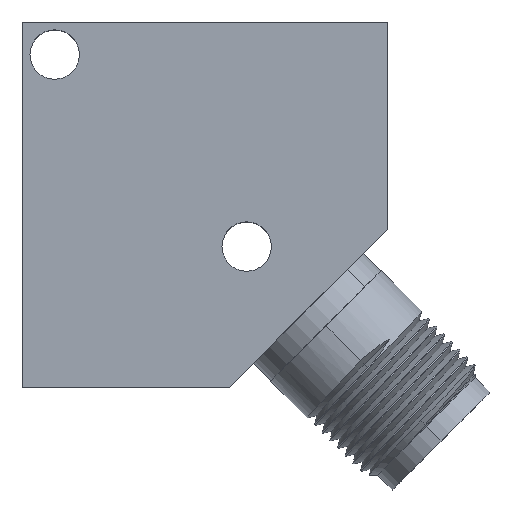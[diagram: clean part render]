
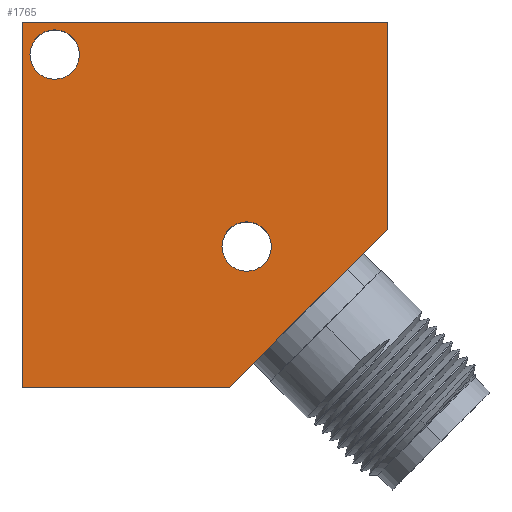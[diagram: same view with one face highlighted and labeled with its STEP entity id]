
A CAD part, top view. The second image highlights one B-rep face of the part: STEP entity #1765.
In plain terms, the highlighted planar face has unit normal (0, 0, 1).
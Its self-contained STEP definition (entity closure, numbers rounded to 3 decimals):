
#55 = DIRECTION ( 'NONE',  ( 1., 0., 0. ) ) ;
#146 = CARTESIAN_POINT ( 'NONE',  ( 6.745, -4.245, 11. ) ) ;
#149 = AXIS2_PLACEMENT_3D ( 'NONE', #2494, #770, #2775 ) ;
#224 = AXIS2_PLACEMENT_3D ( 'NONE', #396, #2411, #686 ) ;
#265 = CARTESIAN_POINT ( 'NONE',  ( -18.5, 18.5, 11. ) ) ;
#302 = EDGE_CURVE ( 'NONE', #393, #2729, #1500, .T. ) ;
#334 = FACE_OUTER_BOUND ( 'NONE', #1081, .T. ) ;
#337 = EDGE_LOOP ( 'NONE', ( #400, #2149 ) ) ;
#351 = CARTESIAN_POINT ( 'NONE',  ( 18.5, 18.5, 11. ) ) ;
#393 = VERTEX_POINT ( 'NONE', #351 ) ;
#396 = CARTESIAN_POINT ( 'NONE',  ( -15.2, 15.2, 11. ) ) ;
#400 = ORIENTED_EDGE ( 'NONE', *, *, #1872, .F. ) ;
#514 = AXIS2_PLACEMENT_3D ( 'NONE', #2295, #565, #2574 ) ;
#565 = DIRECTION ( 'NONE',  ( 0., 0., 1. ) ) ;
#615 = CARTESIAN_POINT ( 'NONE',  ( -18.5, -18.5, 11. ) ) ;
#672 = ORIENTED_EDGE ( 'NONE', *, *, #302, .T. ) ;
#686 = DIRECTION ( 'NONE',  ( 1., 0., 0. ) ) ;
#724 = VECTOR ( 'NONE', #3074, 1000. ) ;
#736 = PLANE ( 'NONE',  #2680 ) ;
#770 = DIRECTION ( 'NONE',  ( 0., 0., 1. ) ) ;
#781 = ORIENTED_EDGE ( 'NONE', *, *, #1308, .T. ) ;
#822 = DIRECTION ( 'NONE',  ( 0., -1., 0. ) ) ;
#836 = LINE ( 'NONE', #1076, #724 ) ;
#896 = DIRECTION ( 'NONE',  ( 1., 0., 0. ) ) ;
#988 = FACE_BOUND ( 'NONE', #337, .T. ) ;
#1076 = CARTESIAN_POINT ( 'NONE',  ( 18.5, 18.5, 11. ) ) ;
#1081 = EDGE_LOOP ( 'NONE', ( #2739, #2292, #672, #2350, #781 ) ) ;
#1264 = CARTESIAN_POINT ( 'NONE',  ( -12.7, 15.2, 11. ) ) ;
#1277 = LINE ( 'NONE', #265, #2898 ) ;
#1308 = EDGE_CURVE ( 'NONE', #3548, #2055, #1400, .T. ) ;
#1400 = LINE ( 'NONE', #615, #3563 ) ;
#1462 = AXIS2_PLACEMENT_3D ( 'NONE', #3477, #1780, #55 ) ;
#1500 = LINE ( 'NONE', #3413, #2992 ) ;
#1503 = EDGE_LOOP ( 'NONE', ( #2059, #2131 ) ) ;
#1555 = EDGE_CURVE ( 'NONE', #2654, #1890, #3035, .T. ) ;
#1579 = LINE ( 'NONE', #3259, #2159 ) ;
#1628 = DIRECTION ( 'NONE',  ( 1., 0., 0. ) ) ;
#1647 = CARTESIAN_POINT ( 'NONE',  ( 1.745, -4.245, 11. ) ) ;
#1697 = CIRCLE ( 'NONE', #1462, 2.5 ) ;
#1712 = DIRECTION ( 'NONE',  ( -1., 0., 0. ) ) ;
#1765 = ADVANCED_FACE ( 'NONE', ( #2520, #988, #334 ), #736, .T. ) ;
#1778 = VERTEX_POINT ( 'NONE', #3577 ) ;
#1780 = DIRECTION ( 'NONE',  ( 0., 0., 1. ) ) ;
#1872 = EDGE_CURVE ( 'NONE', #1890, #2654, #3090, .T. ) ;
#1890 = VERTEX_POINT ( 'NONE', #1264 ) ;
#1916 = EDGE_CURVE ( 'NONE', #1778, #2055, #1579, .T. ) ;
#2017 = CIRCLE ( 'NONE', #149, 2.5 ) ;
#2055 = VERTEX_POINT ( 'NONE', #3019 ) ;
#2059 = ORIENTED_EDGE ( 'NONE', *, *, #3033, .F. ) ;
#2131 = ORIENTED_EDGE ( 'NONE', *, *, #3303, .F. ) ;
#2149 = ORIENTED_EDGE ( 'NONE', *, *, #1555, .F. ) ;
#2159 = VECTOR ( 'NONE', #2713, 1000. ) ;
#2195 = VERTEX_POINT ( 'NONE', #1647 ) ;
#2249 = EDGE_CURVE ( 'NONE', #1778, #393, #836, .T. ) ;
#2292 = ORIENTED_EDGE ( 'NONE', *, *, #2249, .T. ) ;
#2295 = CARTESIAN_POINT ( 'NONE',  ( -15.2, 15.2, 11. ) ) ;
#2350 = ORIENTED_EDGE ( 'NONE', *, *, #2831, .T. ) ;
#2372 = CARTESIAN_POINT ( 'NONE',  ( -18.5, -18.5, 11. ) ) ;
#2411 = DIRECTION ( 'NONE',  ( 0., 0., 1. ) ) ;
#2494 = CARTESIAN_POINT ( 'NONE',  ( 4.245, -4.245, 11. ) ) ;
#2520 = FACE_BOUND ( 'NONE', #1503, .T. ) ;
#2574 = DIRECTION ( 'NONE',  ( 1., 0., 0. ) ) ;
#2654 = VERTEX_POINT ( 'NONE', #3529 ) ;
#2680 = AXIS2_PLACEMENT_3D ( 'NONE', #2758, #3331, #1628 ) ;
#2713 = DIRECTION ( 'NONE',  ( -0.707, -0.707, 0. ) ) ;
#2729 = VERTEX_POINT ( 'NONE', #3359 ) ;
#2739 = ORIENTED_EDGE ( 'NONE', *, *, #1916, .F. ) ;
#2758 = CARTESIAN_POINT ( 'NONE',  ( 0., 0., 11. ) ) ;
#2775 = DIRECTION ( 'NONE',  ( 1., 0., 0. ) ) ;
#2831 = EDGE_CURVE ( 'NONE', #2729, #3548, #1277, .T. ) ;
#2898 = VECTOR ( 'NONE', #822, 1000. ) ;
#2992 = VECTOR ( 'NONE', #1712, 1000. ) ;
#3019 = CARTESIAN_POINT ( 'NONE',  ( 2.5, -18.5, 11. ) ) ;
#3033 = EDGE_CURVE ( 'NONE', #3256, #2195, #1697, .T. ) ;
#3035 = CIRCLE ( 'NONE', #514, 2.5 ) ;
#3074 = DIRECTION ( 'NONE',  ( 0., 1., 0. ) ) ;
#3090 = CIRCLE ( 'NONE', #224, 2.5 ) ;
#3256 = VERTEX_POINT ( 'NONE', #146 ) ;
#3259 = CARTESIAN_POINT ( 'NONE',  ( 18.5, -2.5, 11. ) ) ;
#3303 = EDGE_CURVE ( 'NONE', #2195, #3256, #2017, .T. ) ;
#3331 = DIRECTION ( 'NONE',  ( 0., 0., 1. ) ) ;
#3359 = CARTESIAN_POINT ( 'NONE',  ( -18.5, 18.5, 11. ) ) ;
#3413 = CARTESIAN_POINT ( 'NONE',  ( -18.5, 18.5, 11. ) ) ;
#3477 = CARTESIAN_POINT ( 'NONE',  ( 4.245, -4.245, 11. ) ) ;
#3529 = CARTESIAN_POINT ( 'NONE',  ( -17.7, 15.2, 11. ) ) ;
#3548 = VERTEX_POINT ( 'NONE', #2372 ) ;
#3563 = VECTOR ( 'NONE', #896, 1000. ) ;
#3577 = CARTESIAN_POINT ( 'NONE',  ( 18.5, -2.5, 11. ) ) ;
